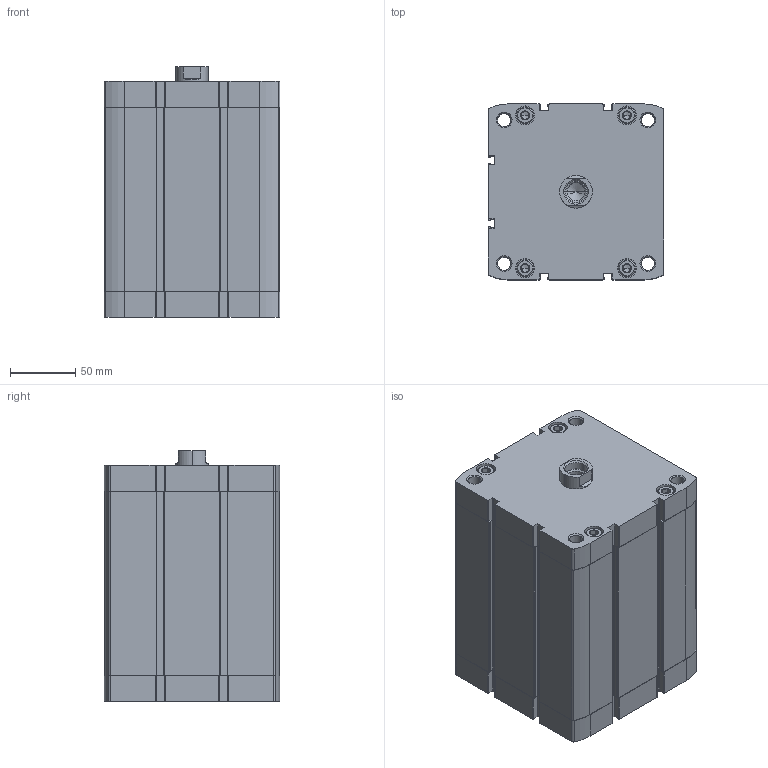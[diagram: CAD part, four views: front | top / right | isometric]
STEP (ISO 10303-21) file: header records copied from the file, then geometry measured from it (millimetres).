
FILE_DESCRIPTION (( 'STEP AP203' ), '1' );
FILE_NAME ('CCN125-100F.STEP', '2020-06-05T19:30:01', ( '' ), ( '' ), 'SwSTEP 2.0', 'SolidWorks 2019', '' );
FILE_SCHEMA (( 'CONFIG_CONTROL_DESIGN' ));
Length unit declared in the file: millimetre
Products named in the file (1): CCN125-100F
Bounding box: 134.6 x 134.6 x 192 mm (x, y, z)
Volume: 1955490.7 mm3; surface area: 300772.7 mm2
Topology: 2 solids, 2 shells, 535 faces, 1370 edges, 861 vertices
Faces by surface type: plane 267, cylinder 194, cone 74
Entity records: 17215 total; most frequent: CARTESIAN_POINT 3931, DIRECTION 2876, ORIENTED_EDGE 2704, EDGE_CURVE 1352, AXIS2_PLACEMENT_3D 1054, VERTEX_POINT 861, VECTOR 768, LINE 768
